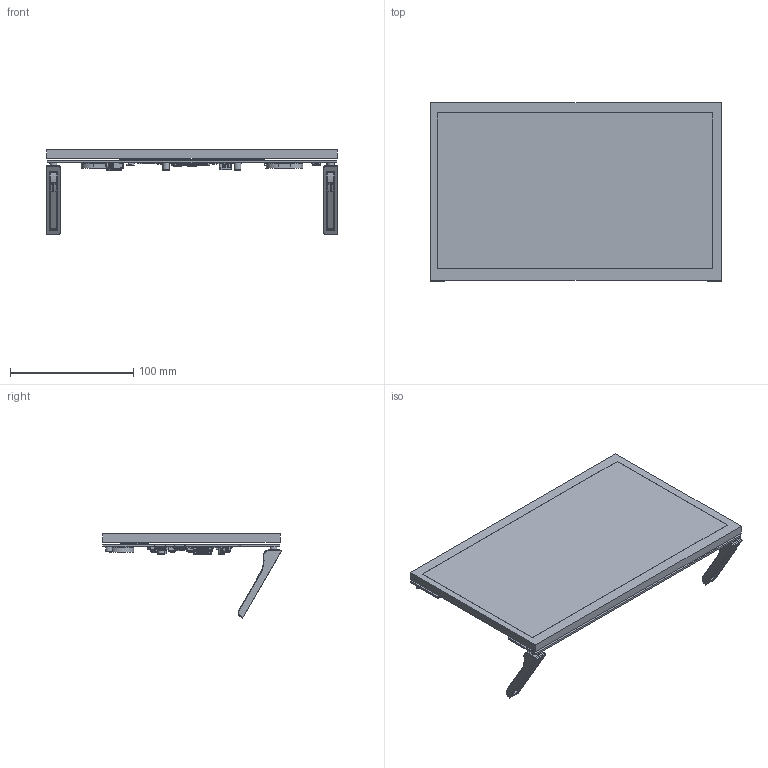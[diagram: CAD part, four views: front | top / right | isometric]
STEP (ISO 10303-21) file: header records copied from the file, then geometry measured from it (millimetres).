
FILE_DESCRIPTION(/* description */ ('','CAx-IF Rec.Pracs.---Representation and Presentation of Product Manufacturing Information (PMI)---4.0---2014-10-13'),/* implementation_level */ '2;1');
FILE_NAME(/* name */ '10_1in-HD-Touchscreen v6.step',/* time_stamp */ '2024-12-04T15:56:54+08:00',/* author */ (''),/* organization */ (''),/* preprocessor_version */ 'ST-DEVELOPER v20',/* originating_system */ 'Autodesk Translation Framework v13.20.0.188',/* authorisation */ '');
FILE_SCHEMA (('AP242_MANAGED_MODEL_BASED_3D_ENGINEERING_MIM_LF { 1 0 10303 442 1 1 4 }'));
Products named in the file (518): 10_1INCH-HDMI-LCD_LUCKFOX_ASM; 10_1INCH-HDMI-LCD_TP; 10_1INCH-HDMI-LCD-LUCKFOX-PCBA_ASM; 10_1INCH-FHD-LCD-LUCKFOX_PCB; HP_SMT; HDMI-19PIN-SMT; TYPE-C_16PIN-9X3X7_3; FPC0_5MM-20PIN-000; FH12-6PIN-0_5SH_TP-CONNECTOR; SPK-2030X4MM; HP2_0-3PIN-SMT; LCD_FPC-CONNECTOR; HP1_25MMX4PIN-SMT; SMTSO-M2_5-4ET; 7DP_CAPLCD-BRACKET-60D; PCB; R280; 1364117344; R444; 1364117344_1; H1; 971850304; Extruded; 971850432; Extruded_1; 971850560; 971850688; 971850688_1; Extruded_2; 971850560_1; Extruded_3; RT2; 1364112608; RT1; 1364117344_2; Q5; 1121273952; 1364117216; 1121273952_1; 1121273952_2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
Assembly tree (803 placements, depth 5):
  10_1INCH-HDMI-LCD_LUCKFOX_ASM
    10_1INCH-HDMI-LCD_TP
    10_1INCH-HDMI-LCD-LUCKFOX-PCBA_ASM
      10_1INCH-FHD-LCD-LUCKFOX_PCB
      HP_SMT
      HDMI-19PIN-SMT
      TYPE-C_16PIN-9X3X7_3  x2
      FPC0_5MM-20PIN-000
      FH12-6PIN-0_5SH_TP-CONNECTOR
      SPK-2030X4MM
      HP2_0-3PIN-SMT
      LCD_FPC-CONNECTOR
      HP1_25MMX4PIN-SMT  x2
    SMTSO-M2_5-4ET  x4
    7DP_CAPLCD-BRACKET-60D  x2
    PCB
      R280
        1364117344
          Extruded_22
      R444
        1364117344_1
          Extruded_22
      H1
        971850304
          Extruded
        971850432
          Extruded_1
        971850560
          Extruded_3
        971850688
          Extruded_2
        971850688_1
          Extruded_2
        971850560_1
          Extruded_3
      RT2
        1364112608
          Extruded_20
      RT1
        1364117344_2
          Extruded_22
      Q5
        1121273952
          Extruded_9
        1364117216
          Extruded_5
        1121273952_1
          Extruded_9
        1121273952_2
          Extruded_9
      R247
        1364117344_3
          Extruded_22
      R245
        1364117344_4
          Extruded_22
      R147
        1364117344_5
          Extruded_22
      R145
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Bounding box: 236 x 145.14 x 68.33 mm (x, y, z)
Volume: 288812 mm3; surface area: 151561.8 mm2
Topology: 249 solids, 255 shells, 7894 faces, 20707 edges, 13124 vertices
Faces by surface type: plane 5476, cylinder 1863, sphere 279, bspline 191, cone 58, torus 27
Full cylindrical faces by diameter (mm): 0.218 x1, 0.5 x4, 1 x20, 1.3 x2, 2.5 x74, 2.529 x4, 3 x2, 3.1 x4, 3.5 x5, 3.6 x1, 4.3 x16, 5 x1, 5.5 x8, 6 x2
Entity records: 157394 total; most frequent: CARTESIAN_POINT 38731, DIRECTION 23147, ORIENTED_EDGE 22606, EDGE_CURVE 11304, LINE 9171, VECTOR 9171, VERTEX_POINT 7377, AXIS2_PLACEMENT_3D 6988
